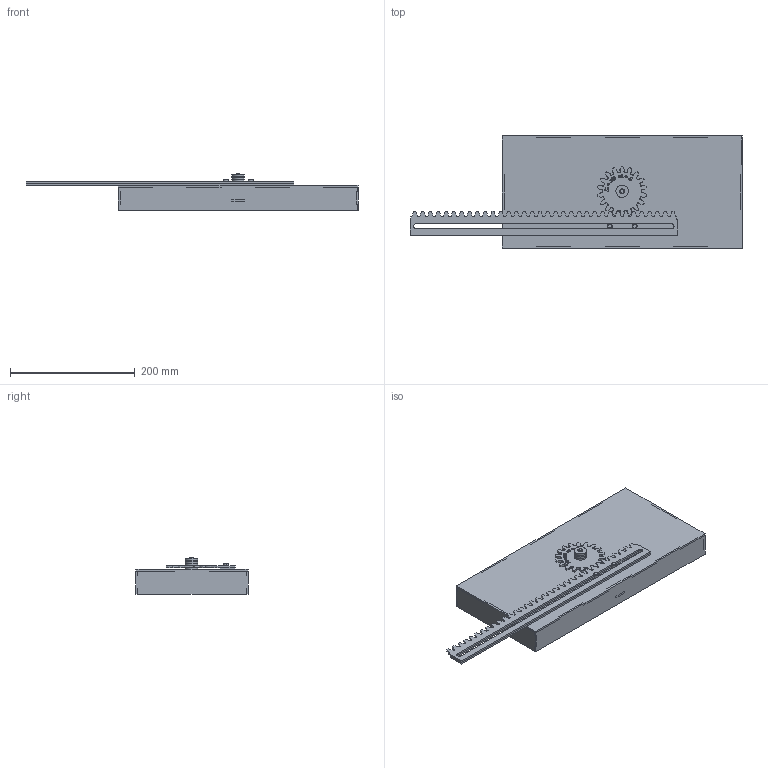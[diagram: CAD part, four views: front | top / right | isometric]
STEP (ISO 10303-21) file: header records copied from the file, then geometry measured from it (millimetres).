
FILE_DESCRIPTION (( 'STEP AP203' ), '1' );
FILE_NAME ('Maquette expérimentation Z18.STEP', '2025-09-19T13:27:10', ( '' ), ( '' ), 'SwSTEP 2.0', 'SolidWorks 2019', '' );
FILE_SCHEMA (( 'CONFIG_CONTROL_DESIGN' ));
Length unit declared in the file: millimetre
Products named in the file (14): Structure support; Pignon denture droite m=4 Z=18; Cr幦aill鋨e avec support; Engrenage m4 Z18 avec axe; Support Cr幦aill鋨e; Axe pignon L45; Cr幦aill鋨e m=4 - 34 dents; Structure support renfort; Structure support coté 2; Structure support coté 1; Maquette expérimentation Z18; Support pignon bouton; Structure support socle; Structure support axe L35
Assembly tree (20 placements, depth 3):
  Maquette expérimentation Z18
    Structure support
      Structure support socle
      Structure support coté 1  x2
      Structure support coté 2  x2
      Structure support renfort
      Structure support axe L35  x2
    Cr幦aill鋨e avec support
      Cr幦aill鋨e m=4 - 34 dents
      Support Cr幦aill鋨e
    Engrenage m4 Z18 avec axe
      Axe pignon L45
      Support pignon bouton  x5
      Pignon denture droite m=4 Z=18
Bounding box: 533.19 x 180 x 59 mm (x, y, z)
Volume: 439733.2 mm3; surface area: 320894.5 mm2
Topology: 17 solids, 17 shells, 802 faces, 2256 edges, 1500 vertices
Faces by surface type: plane 361, bspline 229, cylinder 200, cone 12
Entity records: 30884 total; most frequent: CARTESIAN_POINT 11483, ORIENTED_EDGE 4124, DIRECTION 3014, EDGE_CURVE 2062, VERTEX_POINT 1372, VECTOR 1232, LINE 1232, AXIS2_PLACEMENT_3D 891
